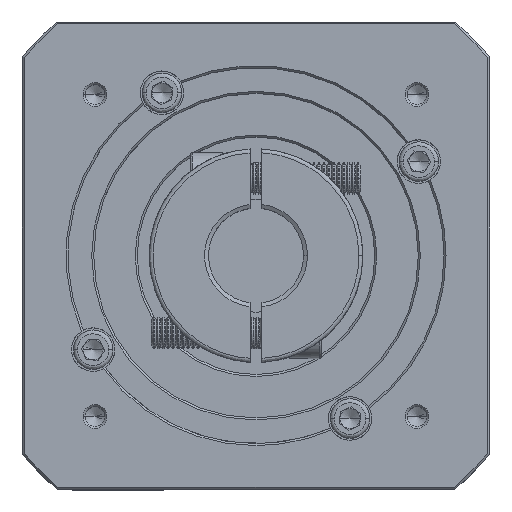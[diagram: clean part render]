
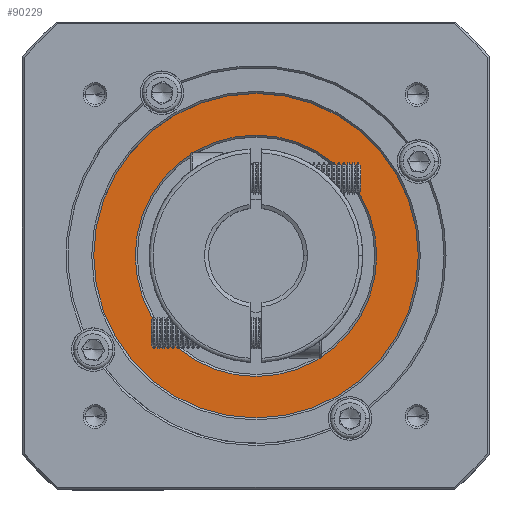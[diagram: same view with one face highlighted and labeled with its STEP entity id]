
A CAD part, top view. The second image highlights one B-rep face of the part: STEP entity #90229.
In plain terms, the highlighted planar face has unit normal (0, 0, 1).
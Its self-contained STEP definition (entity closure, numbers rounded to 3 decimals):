
#5127 = CARTESIAN_POINT ( 'NONE',  ( 64.891, 125.363, 14.683 ) ) ;
#5603 = CIRCLE ( 'NONE', #19239, 30.5 ) ;
#6251 = CIRCLE ( 'NONE', #11871, 41. ) ;
#7004 = DIRECTION ( 'NONE',  ( 1., 0., 0. ) ) ;
#8036 = VERTEX_POINT ( 'NONE', #20064 ) ;
#10956 = EDGE_LOOP ( 'NONE', ( #90350, #29137 ) ) ;
#11871 = AXIS2_PLACEMENT_3D ( 'NONE', #5127, #58591, #77304 ) ;
#17520 = CARTESIAN_POINT ( 'NONE',  ( 105.891, 125.363, 14.683 ) ) ;
#19239 = AXIS2_PLACEMENT_3D ( 'NONE', #27730, #90196, #89830 ) ;
#20064 = CARTESIAN_POINT ( 'NONE',  ( 34.391, 125.363, 14.683 ) ) ;
#24809 = CIRCLE ( 'NONE', #44540, 30.5 ) ;
#27730 = CARTESIAN_POINT ( 'NONE',  ( 64.891, 125.363, 14.683 ) ) ;
#29137 = ORIENTED_EDGE ( 'NONE', *, *, #73955, .T. ) ;
#32094 = CARTESIAN_POINT ( 'NONE',  ( 64.891, 125.363, 14.683 ) ) ;
#35007 = CIRCLE ( 'NONE', #86445, 41. ) ;
#37601 = PLANE ( 'NONE',  #68286 ) ;
#41188 = FACE_OUTER_BOUND ( 'NONE', #65985, .T. ) ;
#41833 = VERTEX_POINT ( 'NONE', #88805 ) ;
#44540 = AXIS2_PLACEMENT_3D ( 'NONE', #88188, #52562, #7004 ) ;
#46726 = EDGE_CURVE ( 'NONE', #83691, #8036, #5603, .T. ) ;
#47208 = DIRECTION ( 'NONE',  ( 0., 0., 1. ) ) ;
#48436 = DIRECTION ( 'NONE',  ( 0., 0., 1. ) ) ;
#52562 = DIRECTION ( 'NONE',  ( 0., 0., -1. ) ) ;
#54349 = CARTESIAN_POINT ( 'NONE',  ( 95.391, 125.363, 14.683 ) ) ;
#58591 = DIRECTION ( 'NONE',  ( 0., 0., 1. ) ) ;
#58640 = DIRECTION ( 'NONE',  ( 1., 0., 0. ) ) ;
#61547 = VERTEX_POINT ( 'NONE', #17520 ) ;
#63607 = FACE_BOUND ( 'NONE', #10956, .T. ) ;
#64852 = CARTESIAN_POINT ( 'NONE',  ( 64.891, 125.363, 14.683 ) ) ;
#65217 = DIRECTION ( 'NONE',  ( 1., 0., 0. ) ) ;
#65985 = EDGE_LOOP ( 'NONE', ( #97322, #107262 ) ) ;
#68286 = AXIS2_PLACEMENT_3D ( 'NONE', #32094, #48436, #58640 ) ;
#73955 = EDGE_CURVE ( 'NONE', #8036, #83691, #24809, .T. ) ;
#77304 = DIRECTION ( 'NONE',  ( 1., 0., 0. ) ) ;
#83691 = VERTEX_POINT ( 'NONE', #54349 ) ;
#86445 = AXIS2_PLACEMENT_3D ( 'NONE', #64852, #47208, #65217 ) ;
#88188 = CARTESIAN_POINT ( 'NONE',  ( 64.891, 125.363, 14.683 ) ) ;
#88805 = CARTESIAN_POINT ( 'NONE',  ( 23.891, 125.363, 14.683 ) ) ;
#89830 = DIRECTION ( 'NONE',  ( 1., 0., 0. ) ) ;
#90196 = DIRECTION ( 'NONE',  ( 0., 0., -1. ) ) ;
#90229 = ADVANCED_FACE ( 'NONE', ( #41188, #63607 ), #37601, .T. ) ;
#90350 = ORIENTED_EDGE ( 'NONE', *, *, #46726, .T. ) ;
#91916 = EDGE_CURVE ( 'NONE', #41833, #61547, #35007, .T. ) ;
#93661 = EDGE_CURVE ( 'NONE', #61547, #41833, #6251, .T. ) ;
#97322 = ORIENTED_EDGE ( 'NONE', *, *, #93661, .T. ) ;
#107262 = ORIENTED_EDGE ( 'NONE', *, *, #91916, .T. ) ;
